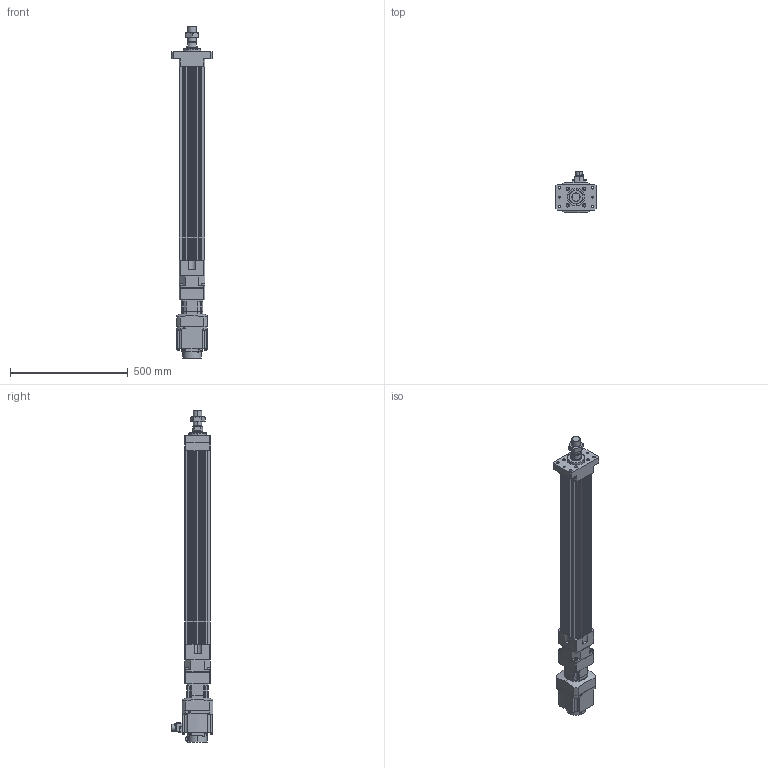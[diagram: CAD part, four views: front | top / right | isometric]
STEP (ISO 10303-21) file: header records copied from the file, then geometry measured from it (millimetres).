
FILE_DESCRIPTION (( 'STEP AP203' ), '1' );
FILE_NAME ('HES110NS(HS)-S650-W010G00-M-FM.STEP', '2023-01-27T07:35:40', ( 'tms' ), ( '' ), 'SwSTEP 2.0', 'SolidWorks 2013', '' );
FILE_SCHEMA (( 'CONFIG_CONTROL_DESIGN' ));
Length unit declared in the file: millimetre
Products named in the file (8): AB0901; AB090-003[HG-SR102B]; P0401301004; M36X1.5P; HES110NS(HS)-S650-W010G00-M-FM; HES110-S650-G090-FM; HG-SR102; HES110 ROD M ST650
Assembly tree (7 placements, depth 3):
  HES110NS(HS)-S650-W010G00-M-FM
    HES110-S650-G090-FM
    HES110 ROD M ST650
    M36X1.5P
    AB090-003[HG-SR102B]
      AB0901
      P0401301004
    HG-SR102
Bounding box: 170 x 177.49 x 1408.5 mm (x, y, z)
Volume: 9152787.6 mm3; surface area: 1272693.2 mm2
Topology: 4 solids, 15 shells, 1165 faces, 2950 edges, 1921 vertices
Faces by surface type: plane 558, cylinder 523, cone 72, bspline 8, torus 4
Entity records: 37081 total; most frequent: CARTESIAN_POINT 7224, DIRECTION 6367, ORIENTED_EDGE 5848, EDGE_CURVE 2934, AXIS2_PLACEMENT_3D 2335, VERTEX_POINT 1921, LINE 1697, VECTOR 1697
